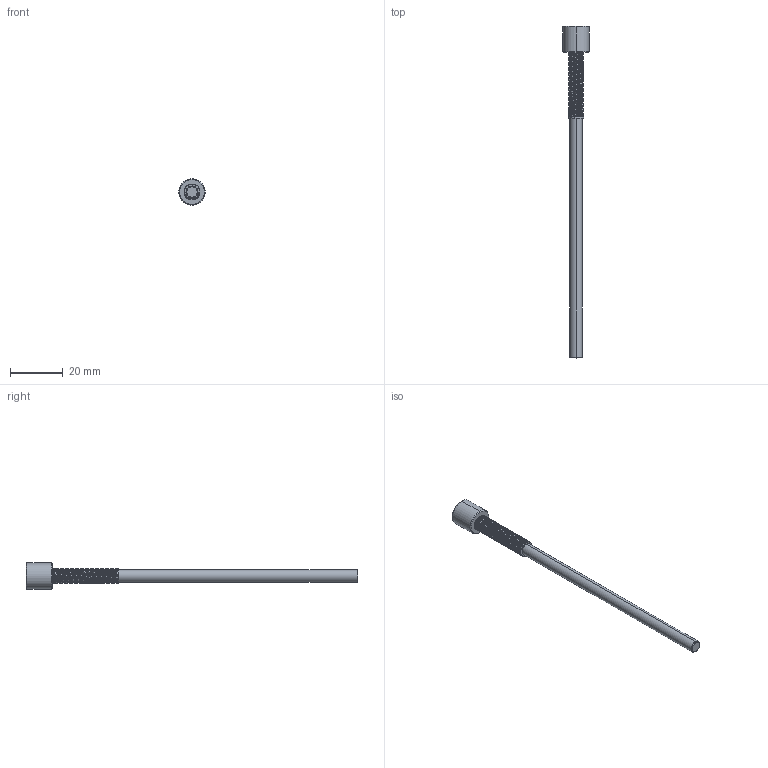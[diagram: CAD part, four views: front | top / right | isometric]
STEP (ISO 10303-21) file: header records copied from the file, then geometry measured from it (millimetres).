
FILE_DESCRIPTION (( 'STEP AP214' ), '1' );
FILE_NAME ('酗階裝2.STEP', '2026-10-09T05:41:48', ( '' ), ( '' ), 'SwSTEP 2.0', 'SolidWorks 2024', '' );
FILE_SCHEMA (( 'AUTOMOTIVE_DESIGN' ));
Length unit declared in the file: millimetre
Products named in the file (1): 长顶杆2
Bounding box: 10 x 126 x 10 mm (x, y, z)
Volume: 2891.1 mm3; surface area: 2523.4 mm2
Topology: 1 solids, 1 shells, 111 faces, 305 edges, 199 vertices
Faces by surface type: cylinder 84, plane 18, cone 6, bspline 3
Entity records: 11128 total; most frequent: CARTESIAN_POINT 8698, ORIENTED_EDGE 610, DIRECTION 373, EDGE_CURVE 305, VERTEX_POINT 199, AXIS2_PLACEMENT_3D 126, VECTOR 121, LINE 121
